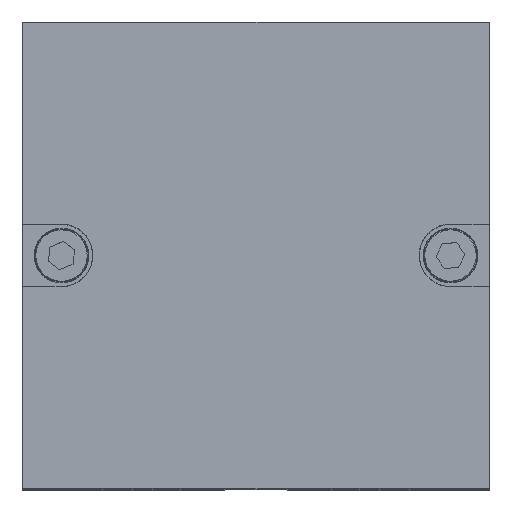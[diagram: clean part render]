
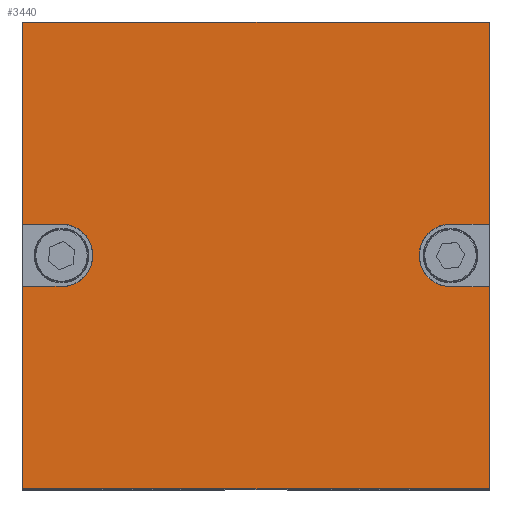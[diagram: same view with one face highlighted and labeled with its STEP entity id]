
A CAD part, top view. The second image highlights one B-rep face of the part: STEP entity #3440.
In plain terms, the highlighted planar face has unit normal (0, 0, 1).
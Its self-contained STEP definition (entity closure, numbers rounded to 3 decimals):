
#26 = EDGE_CURVE ( 'NONE', #9090, #654, #4770, .T. ) ;
#153 = CARTESIAN_POINT ( 'NONE',  ( 30., -30., 91. ) ) ;
#211 = EDGE_CURVE ( 'NONE', #3399, #4941, #2610, .T. ) ;
#212 = CARTESIAN_POINT ( 'NONE',  ( -25., 0., 91. ) ) ;
#240 = VECTOR ( 'NONE', #5446, 1000. ) ;
#282 = VERTEX_POINT ( 'NONE', #7179 ) ;
#321 = EDGE_CURVE ( 'NONE', #7311, #2945, #8685, .T. ) ;
#344 = VERTEX_POINT ( 'NONE', #153 ) ;
#356 = ORIENTED_EDGE ( 'NONE', *, *, #575, .F. ) ;
#433 = CARTESIAN_POINT ( 'NONE',  ( -30., -4., 91. ) ) ;
#451 = VERTEX_POINT ( 'NONE', #433 ) ;
#482 = ORIENTED_EDGE ( 'NONE', *, *, #1471, .T. ) ;
#502 = LINE ( 'NONE', #4773, #7552 ) ;
#575 = EDGE_CURVE ( 'NONE', #654, #3399, #8986, .T. ) ;
#654 = VERTEX_POINT ( 'NONE', #5077 ) ;
#712 = DIRECTION ( 'NONE',  ( 0., -1., 0. ) ) ;
#720 = CARTESIAN_POINT ( 'NONE',  ( 0., 0., 91. ) ) ;
#919 = EDGE_CURVE ( 'NONE', #282, #4941, #7458, .T. ) ;
#1026 = DIRECTION ( 'NONE',  ( 0., 1., 0. ) ) ;
#1103 = ORIENTED_EDGE ( 'NONE', *, *, #8118, .F. ) ;
#1152 = DIRECTION ( 'NONE',  ( 0., -1., 0. ) ) ;
#1204 = CARTESIAN_POINT ( 'NONE',  ( -30., 4., 91. ) ) ;
#1380 = DIRECTION ( 'NONE',  ( 0., 0., 1. ) ) ;
#1451 = LINE ( 'NONE', #4114, #240 ) ;
#1471 = EDGE_CURVE ( 'NONE', #2945, #282, #5908, .T. ) ;
#1542 = LINE ( 'NONE', #8072, #1962 ) ;
#1570 = CARTESIAN_POINT ( 'NONE',  ( 25., 4.025, 91. ) ) ;
#1585 = DIRECTION ( 'NONE',  ( 1., 0., 0. ) ) ;
#1869 = CARTESIAN_POINT ( 'NONE',  ( 30., -4.025, 91. ) ) ;
#1962 = VECTOR ( 'NONE', #1152, 1000. ) ;
#2029 = AXIS2_PLACEMENT_3D ( 'NONE', #3439, #1380, #5505 ) ;
#2051 = VERTEX_POINT ( 'NONE', #4481 ) ;
#2055 = ORIENTED_EDGE ( 'NONE', *, *, #5519, .F. ) ;
#2074 = CARTESIAN_POINT ( 'NONE',  ( 30., -30., 91. ) ) ;
#2126 = CARTESIAN_POINT ( 'NONE',  ( -25.448, 4., 91. ) ) ;
#2202 = CARTESIAN_POINT ( 'NONE',  ( 30., -30., 91. ) ) ;
#2275 = ORIENTED_EDGE ( 'NONE', *, *, #321, .T. ) ;
#2605 = DIRECTION ( 'NONE',  ( 0., 0., 1. ) ) ;
#2610 = LINE ( 'NONE', #6742, #8782 ) ;
#2704 = AXIS2_PLACEMENT_3D ( 'NONE', #720, #6364, #7067 ) ;
#2823 = VERTEX_POINT ( 'NONE', #1570 ) ;
#2945 = VERTEX_POINT ( 'NONE', #6659 ) ;
#3081 = EDGE_CURVE ( 'NONE', #2823, #2051, #3770, .T. ) ;
#3222 = DIRECTION ( 'NONE',  ( -1., 0., 0. ) ) ;
#3300 = DIRECTION ( 'NONE',  ( -1., 0., 0. ) ) ;
#3343 = CARTESIAN_POINT ( 'NONE',  ( -30., -30., 91. ) ) ;
#3399 = VERTEX_POINT ( 'NONE', #2126 ) ;
#3439 = CARTESIAN_POINT ( 'NONE',  ( -25., 0., 91. ) ) ;
#3440 = ADVANCED_FACE ( 'NONE', ( #8479 ), #7913, .T. ) ;
#3481 = CARTESIAN_POINT ( 'NONE',  ( 30., 30., 91. ) ) ;
#3486 = LINE ( 'NONE', #7113, #6806 ) ;
#3690 = DIRECTION ( 'NONE',  ( 1., 0., 0. ) ) ;
#3700 = CARTESIAN_POINT ( 'NONE',  ( 30., 4.025, 91. ) ) ;
#3707 = VECTOR ( 'NONE', #712, 1000. ) ;
#3754 = LINE ( 'NONE', #5156, #7962 ) ;
#3770 = CIRCLE ( 'NONE', #6148, 4.025 ) ;
#3785 = DIRECTION ( 'NONE',  ( 0., 0., 1. ) ) ;
#3863 = ORIENTED_EDGE ( 'NONE', *, *, #211, .F. ) ;
#3901 = CARTESIAN_POINT ( 'NONE',  ( 25., 0., 91. ) ) ;
#3920 = ORIENTED_EDGE ( 'NONE', *, *, #4752, .T. ) ;
#4114 = CARTESIAN_POINT ( 'NONE',  ( 35., -4.025, 91. ) ) ;
#4214 = VERTEX_POINT ( 'NONE', #3343 ) ;
#4324 = ORIENTED_EDGE ( 'NONE', *, *, #6221, .T. ) ;
#4370 = DIRECTION ( 'NONE',  ( 0., 1., 0. ) ) ;
#4461 = VECTOR ( 'NONE', #7035, 1000. ) ;
#4481 = CARTESIAN_POINT ( 'NONE',  ( 25., -4.025, 91. ) ) ;
#4563 = ORIENTED_EDGE ( 'NONE', *, *, #26, .F. ) ;
#4690 = EDGE_CURVE ( 'NONE', #451, #9090, #3486, .T. ) ;
#4744 = ORIENTED_EDGE ( 'NONE', *, *, #919, .T. ) ;
#4752 = EDGE_CURVE ( 'NONE', #344, #6740, #5037, .T. ) ;
#4770 = CIRCLE ( 'NONE', #2029, 4.025 ) ;
#4773 = CARTESIAN_POINT ( 'NONE',  ( 35., 4.025, 91. ) ) ;
#4941 = VERTEX_POINT ( 'NONE', #1204 ) ;
#4959 = CARTESIAN_POINT ( 'NONE',  ( -30., -30., 91. ) ) ;
#5037 = LINE ( 'NONE', #2074, #6694 ) ;
#5077 = CARTESIAN_POINT ( 'NONE',  ( -20.975, 0., 91. ) ) ;
#5156 = CARTESIAN_POINT ( 'NONE',  ( 30., -30., 91. ) ) ;
#5446 = DIRECTION ( 'NONE',  ( 1., 0., 0. ) ) ;
#5505 = DIRECTION ( 'NONE',  ( 1., 0., 0. ) ) ;
#5519 = EDGE_CURVE ( 'NONE', #7311, #2823, #502, .T. ) ;
#5607 = DIRECTION ( 'NONE',  ( 1., 0., 0. ) ) ;
#5662 = ORIENTED_EDGE ( 'NONE', *, *, #4690, .F. ) ;
#5908 = LINE ( 'NONE', #3481, #4461 ) ;
#6148 = AXIS2_PLACEMENT_3D ( 'NONE', #3901, #2605, #7487 ) ;
#6221 = EDGE_CURVE ( 'NONE', #451, #4214, #1542, .T. ) ;
#6364 = DIRECTION ( 'NONE',  ( 0., 0., 1. ) ) ;
#6377 = VECTOR ( 'NONE', #4370, 1000. ) ;
#6659 = CARTESIAN_POINT ( 'NONE',  ( 30., 30., 91. ) ) ;
#6694 = VECTOR ( 'NONE', #1026, 1000. ) ;
#6740 = VERTEX_POINT ( 'NONE', #1869 ) ;
#6742 = CARTESIAN_POINT ( 'NONE',  ( -35., 4., 91. ) ) ;
#6806 = VECTOR ( 'NONE', #5607, 1000. ) ;
#7035 = DIRECTION ( 'NONE',  ( -1., 0., 0. ) ) ;
#7067 = DIRECTION ( 'NONE',  ( 1., 0., 0. ) ) ;
#7113 = CARTESIAN_POINT ( 'NONE',  ( -35., -4., 91. ) ) ;
#7179 = CARTESIAN_POINT ( 'NONE',  ( -30., 30., 91. ) ) ;
#7273 = CARTESIAN_POINT ( 'NONE',  ( -25.448, -4., 91. ) ) ;
#7311 = VERTEX_POINT ( 'NONE', #3700 ) ;
#7458 = LINE ( 'NONE', #4959, #3707 ) ;
#7487 = DIRECTION ( 'NONE',  ( 1., 0., 0. ) ) ;
#7552 = VECTOR ( 'NONE', #3300, 1000. ) ;
#7913 = PLANE ( 'NONE',  #2704 ) ;
#7962 = VECTOR ( 'NONE', #1585, 1000. ) ;
#8072 = CARTESIAN_POINT ( 'NONE',  ( -30., -30., 91. ) ) ;
#8118 = EDGE_CURVE ( 'NONE', #2051, #6740, #1451, .T. ) ;
#8160 = ORIENTED_EDGE ( 'NONE', *, *, #3081, .F. ) ;
#8425 = EDGE_CURVE ( 'NONE', #4214, #344, #3754, .T. ) ;
#8479 = FACE_OUTER_BOUND ( 'NONE', #8954, .T. ) ;
#8576 = ORIENTED_EDGE ( 'NONE', *, *, #8425, .T. ) ;
#8685 = LINE ( 'NONE', #2202, #6377 ) ;
#8782 = VECTOR ( 'NONE', #3222, 1000. ) ;
#8935 = AXIS2_PLACEMENT_3D ( 'NONE', #212, #3785, #3690 ) ;
#8954 = EDGE_LOOP ( 'NONE', ( #5662, #4324, #8576, #3920, #1103, #8160, #2055, #2275, #482, #4744, #3863, #356, #4563 ) ) ;
#8986 = CIRCLE ( 'NONE', #8935, 4.025 ) ;
#9090 = VERTEX_POINT ( 'NONE', #7273 ) ;
